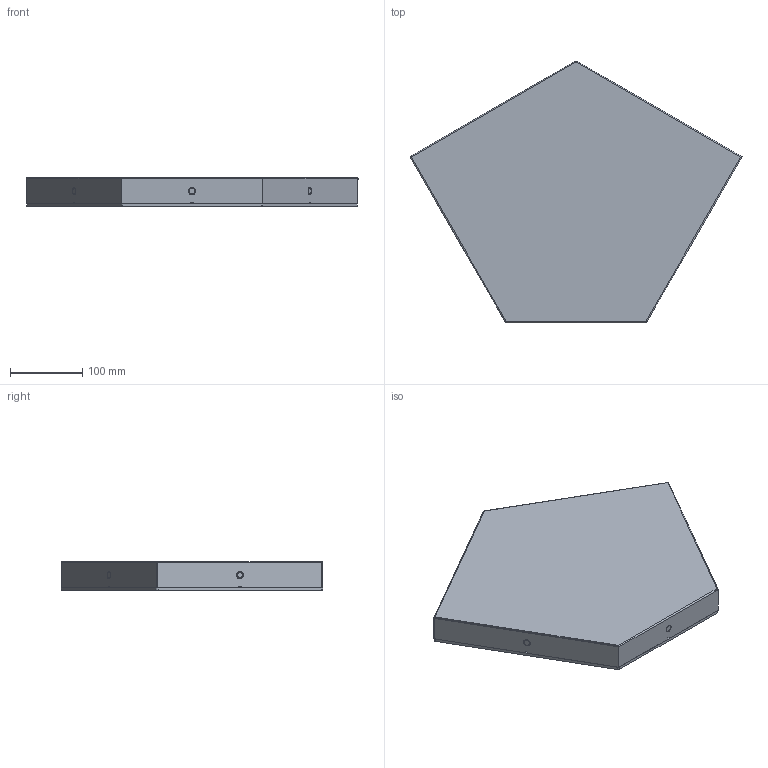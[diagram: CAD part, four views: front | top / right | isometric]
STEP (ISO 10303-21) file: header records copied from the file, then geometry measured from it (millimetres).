
FILE_DESCRIPTION(/* description */ (''),/* implementation_level */ '2;1');
FILE_NAME(/* name */ 'SEM000~3',/* time_stamp */ '2021-03-16T12:42:54+01:00',/* author */ (''),/* organization */ (''),/* preprocessor_version */ 'ST-DEVELOPER v16.5',/* originating_system */ '',/* authorisation */ '');
FILE_SCHEMA (('CONFIG_CONTROL_DESIGN'));
Length unit declared in the file: millimetre
Products named in the file (1): Document
Bounding box: 458.01 x 360.85 x 40 mm (x, y, z)
Volume: 1802170.5 mm3; surface area: 945514.8 mm2
Topology: 4 solids, 4 shells, 251 faces, 652 edges, 410 vertices
Faces by surface type: plane 125, cylinder 98, bspline 28
Entity records: 7643 total; most frequent: CARTESIAN_POINT 3195, ORIENTED_EDGE 1304, EDGE_CURVE 652, B_SPLINE_CURVE_WITH_KNOTS 492, VERTEX_POINT 410, EDGE_LOOP 272, ADVANCED_FACE 251, FACE_OUTER_BOUND 251
